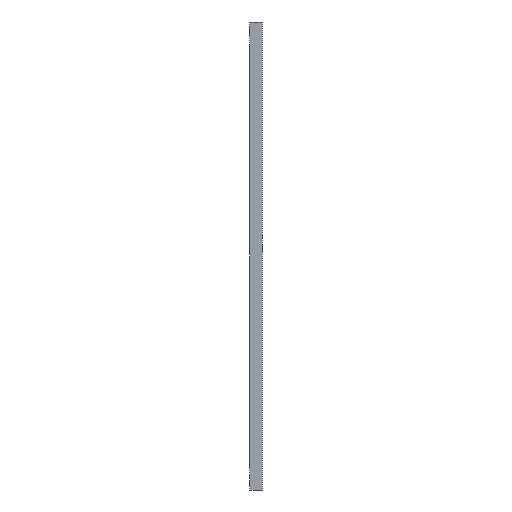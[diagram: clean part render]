
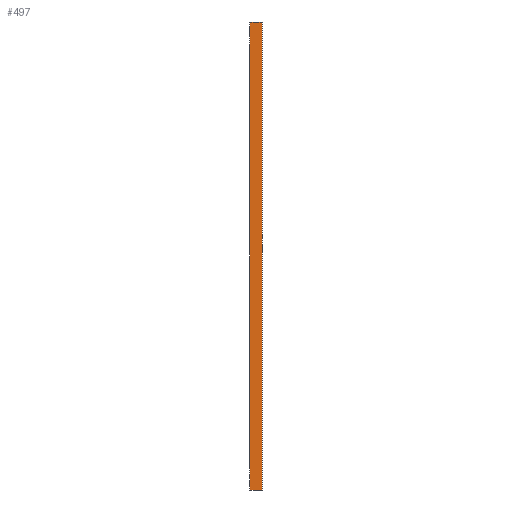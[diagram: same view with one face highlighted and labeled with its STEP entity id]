
A CAD part, left-side view. The second image highlights one B-rep face of the part: STEP entity #497.
In plain terms, the highlighted planar face has unit normal (-1, 0, 0).
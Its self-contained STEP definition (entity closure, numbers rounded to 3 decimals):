
#27 = ORIENTED_EDGE ( 'NONE', *, *, #31, .F. ) ;
#31 = EDGE_CURVE ( 'NONE', #258, #242, #707, .T. ) ;
#54 = ORIENTED_EDGE ( 'NONE', *, *, #950, .T. ) ;
#99 = CARTESIAN_POINT ( 'NONE',  ( -8., 0., 0. ) ) ;
#141 = EDGE_CURVE ( 'NONE', #420, #297, #262, .T. ) ;
#169 = CARTESIAN_POINT ( 'NONE',  ( -8., 3.2, 479. ) ) ;
#183 = CARTESIAN_POINT ( 'NONE',  ( -8., 9.3, 479. ) ) ;
#205 = CARTESIAN_POINT ( 'NONE',  ( -8., 12.5, 479. ) ) ;
#242 = VERTEX_POINT ( 'NONE', #1472 ) ;
#246 = PLANE ( 'NONE',  #1005 ) ;
#254 = CARTESIAN_POINT ( 'NONE',  ( -8., 3.2, 0. ) ) ;
#258 = VERTEX_POINT ( 'NONE', #169 ) ;
#262 = LINE ( 'NONE', #741, #831 ) ;
#285 = CARTESIAN_POINT ( 'NONE',  ( -8., 0., 479. ) ) ;
#297 = VERTEX_POINT ( 'NONE', #1401 ) ;
#365 = VECTOR ( 'NONE', #873, 1000. ) ;
#369 = DIRECTION ( 'NONE',  ( 0., 1., 0. ) ) ;
#389 = DIRECTION ( 'NONE',  ( 0., 1., 0. ) ) ;
#410 = DIRECTION ( 'NONE',  ( -1., 0., 0. ) ) ;
#420 = VERTEX_POINT ( 'NONE', #254 ) ;
#497 = ADVANCED_FACE ( 'NONE', ( #1314 ), #246, .T. ) ;
#511 = VERTEX_POINT ( 'NONE', #183 ) ;
#585 = CARTESIAN_POINT ( 'NONE',  ( -8., 12.5, 0. ) ) ;
#602 = EDGE_CURVE ( 'NONE', #242, #1174, #1344, .T. ) ;
#631 = VERTEX_POINT ( 'NONE', #205 ) ;
#663 = CARTESIAN_POINT ( 'NONE',  ( -8., 12.5, 479. ) ) ;
#666 = EDGE_CURVE ( 'NONE', #631, #1500, #719, .T. ) ;
#675 = LINE ( 'NONE', #1400, #986 ) ;
#682 = EDGE_CURVE ( 'NONE', #258, #511, #675, .T. ) ;
#690 = CARTESIAN_POINT ( 'NONE',  ( -8., 12.5, 479. ) ) ;
#693 = DIRECTION ( 'NONE',  ( 0., -1., 0. ) ) ;
#701 = DIRECTION ( 'NONE',  ( 0., 1., 0. ) ) ;
#707 = LINE ( 'NONE', #1403, #1205 ) ;
#719 = LINE ( 'NONE', #690, #1262 ) ;
#722 = CARTESIAN_POINT ( 'NONE',  ( -8., 0., 479. ) ) ;
#741 = CARTESIAN_POINT ( 'NONE',  ( -8., 0., 0. ) ) ;
#766 = ORIENTED_EDGE ( 'NONE', *, *, #602, .F. ) ;
#775 = DIRECTION ( 'NONE',  ( 0., 0., -1. ) ) ;
#779 = ORIENTED_EDGE ( 'NONE', *, *, #1082, .F. ) ;
#781 = DIRECTION ( 'NONE',  ( 0., 1., 0. ) ) ;
#800 = EDGE_CURVE ( 'NONE', #420, #1174, #887, .T. ) ;
#816 = ORIENTED_EDGE ( 'NONE', *, *, #800, .T. ) ;
#831 = VECTOR ( 'NONE', #389, 1000. ) ;
#839 = VECTOR ( 'NONE', #781, 1000. ) ;
#873 = DIRECTION ( 'NONE',  ( 0., -1., 0. ) ) ;
#887 = LINE ( 'NONE', #983, #365 ) ;
#950 = EDGE_CURVE ( 'NONE', #511, #631, #1123, .T. ) ;
#969 = ORIENTED_EDGE ( 'NONE', *, *, #682, .T. ) ;
#983 = CARTESIAN_POINT ( 'NONE',  ( -8., 0., 0. ) ) ;
#986 = VECTOR ( 'NONE', #369, 1000. ) ;
#998 = ORIENTED_EDGE ( 'NONE', *, *, #666, .T. ) ;
#1005 = AXIS2_PLACEMENT_3D ( 'NONE', #722, #410, #1229 ) ;
#1076 = DIRECTION ( 'NONE',  ( 0., 0., -1. ) ) ;
#1082 = EDGE_CURVE ( 'NONE', #297, #1500, #1413, .T. ) ;
#1123 = LINE ( 'NONE', #663, #839 ) ;
#1174 = VERTEX_POINT ( 'NONE', #1330 ) ;
#1182 = ORIENTED_EDGE ( 'NONE', *, *, #141, .F. ) ;
#1205 = VECTOR ( 'NONE', #693, 1000. ) ;
#1229 = DIRECTION ( 'NONE',  ( 0., 0., 1. ) ) ;
#1260 = VECTOR ( 'NONE', #701, 1000. ) ;
#1262 = VECTOR ( 'NONE', #1076, 1000. ) ;
#1314 = FACE_OUTER_BOUND ( 'NONE', #1485, .T. ) ;
#1330 = CARTESIAN_POINT ( 'NONE',  ( -8., 0., 0. ) ) ;
#1344 = LINE ( 'NONE', #285, #1462 ) ;
#1400 = CARTESIAN_POINT ( 'NONE',  ( -8., 0., 479. ) ) ;
#1401 = CARTESIAN_POINT ( 'NONE',  ( -8., 9.3, 0. ) ) ;
#1403 = CARTESIAN_POINT ( 'NONE',  ( -8., 0., 479. ) ) ;
#1413 = LINE ( 'NONE', #99, #1260 ) ;
#1462 = VECTOR ( 'NONE', #775, 1000. ) ;
#1472 = CARTESIAN_POINT ( 'NONE',  ( -8., 0., 479. ) ) ;
#1485 = EDGE_LOOP ( 'NONE', ( #1182, #816, #766, #27, #969, #54, #998, #779 ) ) ;
#1500 = VERTEX_POINT ( 'NONE', #585 ) ;
